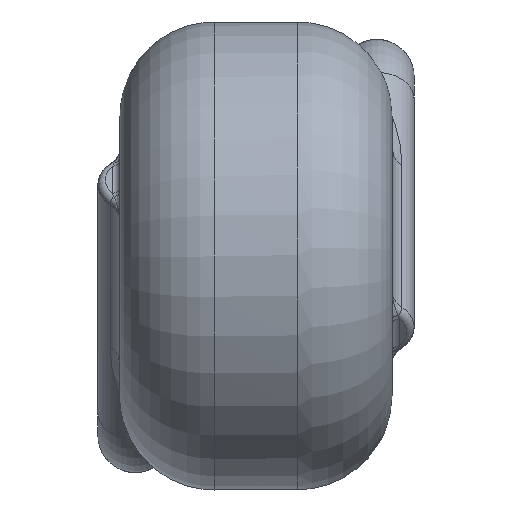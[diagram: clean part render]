
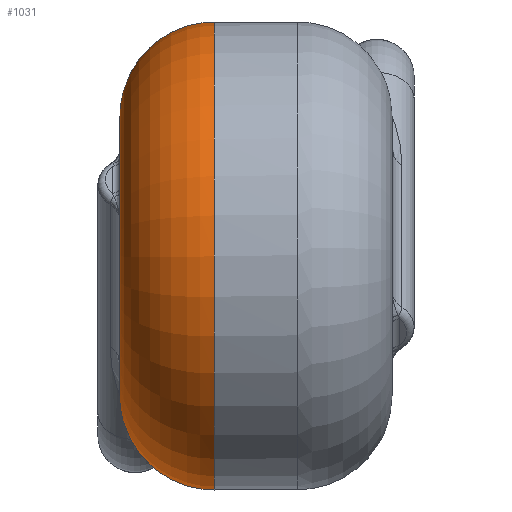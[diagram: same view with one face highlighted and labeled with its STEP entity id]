
A CAD part, left-side view. The second image highlights one B-rep face of the part: STEP entity #1031.
In plain terms, the highlighted toroidal (fillet/blend) face has major radius 3.7 mm and minor radius 2.5 mm.
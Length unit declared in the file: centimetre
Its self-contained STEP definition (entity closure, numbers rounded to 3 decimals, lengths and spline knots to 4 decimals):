
#746=CARTESIAN_POINT('',(0.2393,0.64,-0.2822));
#747=VERTEX_POINT('',#746);
#809=CARTESIAN_POINT('',(0.4207,0.4487,-0.4459));
#810=VERTEX_POINT('',#809);
#818=CARTESIAN_POINT('',(0.4207,0.4487,-0.4459));
#819=CARTESIAN_POINT('',(0.4086,0.4598,-0.4536));
#820=CARTESIAN_POINT('',(0.3742,0.4994,-0.4677));
#821=CARTESIAN_POINT('',(0.3331,0.5712,-0.4401));
#822=CARTESIAN_POINT('',(0.2976,0.6266,-0.3623));
#823=CARTESIAN_POINT('',(0.2634,0.64,-0.305));
#824=CARTESIAN_POINT('',(0.2393,0.64,-0.2822));
#825=B_SPLINE_CURVE_WITH_KNOTS('',3,(#818,#819,#820,#821,#822,#823,#824),.UNSPECIFIED.,.F.,.U.,(4,1,1,1,4),(-0.4599,-0.3942,-0.2628,-0.1314,0.0),.UNSPECIFIED.);
#826=EDGE_CURVE('',#810,#747,#825,.T.);
#869=CARTESIAN_POINT('',(0.4995,0.4123,-0.3656));
#870=VERTEX_POINT('',#869);
#878=CARTESIAN_POINT('',(0.4995,0.4123,-0.3656));
#879=CARTESIAN_POINT('',(0.4752,0.4114,-0.399));
#880=CARTESIAN_POINT('',(0.4464,0.4251,-0.4295));
#881=CARTESIAN_POINT('',(0.4207,0.4487,-0.4459));
#882=B_SPLINE_CURVE_WITH_KNOTS('',3,(#878,#879,#880,#881),.UNSPECIFIED.,.F.,.U.,(4,4),(-0.1402,0.),.UNSPECIFIED.);
#883=EDGE_CURVE('',#870,#810,#882,.T.);
#957=CARTESIAN_POINT('',(0.3683,0.64,-0.0355));
#958=VERTEX_POINT('',#957);
#966=CARTESIAN_POINT('',(0.3683,0.64,-0.0355));
#967=CARTESIAN_POINT('',(0.3838,0.64,-0.056));
#968=CARTESIAN_POINT('',(0.4172,0.6361,-0.0919));
#969=CARTESIAN_POINT('',(0.4905,0.606,-0.1391));
#970=CARTESIAN_POINT('',(0.5493,0.5419,-0.177));
#971=CARTESIAN_POINT('',(0.5608,0.469,-0.2397));
#972=CARTESIAN_POINT('',(0.5424,0.4253,-0.2994));
#973=CARTESIAN_POINT('',(0.5151,0.4129,-0.3443));
#974=CARTESIAN_POINT('',(0.4995,0.4123,-0.3656));
#975=B_SPLINE_CURVE_WITH_KNOTS('',3,(#966,#967,#968,#969,#970,#971,#972,#973,#974),.UNSPECIFIED.,.F.,.U.,(4,1,1,1,1,1,4),(-1.2264,-1.1369,-1.0474,-0.8685,-0.779,-0.6895,-0.6),.UNSPECIFIED.);
#976=EDGE_CURVE('',#958,#870,#975,.T.);
#1003=CARTESIAN_POINT('',(0.0,0.39,0.0));
#1004=DIRECTION('',(0.0,1.0,0.0));
#1005=DIRECTION('',(1.0,0.0,0.0));
#1006=AXIS2_PLACEMENT_3D('',#1003,#1004,#1005);
#1007=TOROIDAL_SURFACE('',#1006,0.37,0.25);
#1008=CARTESIAN_POINT('',(0.62,0.39,0.));
#1009=VERTEX_POINT('',#1008);
#1010=CARTESIAN_POINT('',(0.0,0.39,0.0));
#1011=DIRECTION('',(0.0,1.0,0.0));
#1012=DIRECTION('',(-1.0,0.0,0.0));
#1013=AXIS2_PLACEMENT_3D('',#1010,#1011,#1012);
#1014=CIRCLE('',#1013,0.62);
#1015=EDGE_CURVE('',#1009,#1009,#1014,.T.);
#1016=ORIENTED_EDGE('',*,*,#1015,.T.);
#1017=EDGE_LOOP('',(#1016));
#1018=FACE_OUTER_BOUND('',#1017,.T.);
#1019=ORIENTED_EDGE('',*,*,#976,.F.);
#1020=CARTESIAN_POINT('',(0.0,0.64,0.0));
#1021=DIRECTION('',(0.0,-1.0,0.0));
#1022=DIRECTION('',(-1.0,0.0,0.0));
#1023=AXIS2_PLACEMENT_3D('',#1020,#1021,#1022);
#1024=CIRCLE('',#1023,0.37);
#1025=EDGE_CURVE('',#958,#747,#1024,.T.);
#1026=ORIENTED_EDGE('',*,*,#1025,.T.);
#1027=ORIENTED_EDGE('',*,*,#826,.F.);
#1028=ORIENTED_EDGE('',*,*,#883,.F.);
#1029=EDGE_LOOP('',(#1019,#1026,#1027,#1028));
#1030=FACE_BOUND('',#1029,.T.);
#1031=ADVANCED_FACE('',(#1018,#1030),#1007,.T.);
